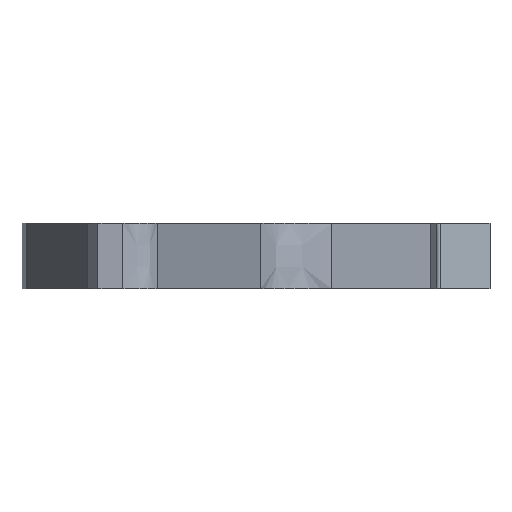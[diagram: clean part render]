
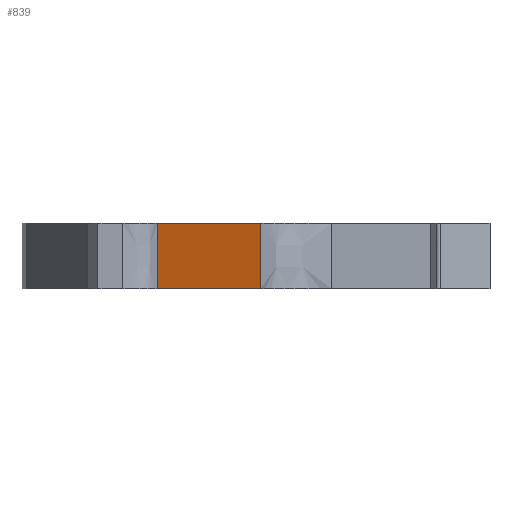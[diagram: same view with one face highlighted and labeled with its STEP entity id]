
A CAD part, left-side view. The second image highlights one B-rep face of the part: STEP entity #839.
In plain terms, the highlighted free-form (B-spline) face has degree [1, 1] with [2, 2] control points.
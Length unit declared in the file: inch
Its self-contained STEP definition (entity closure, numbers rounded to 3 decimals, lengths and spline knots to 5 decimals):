
#81=DIRECTION('',(0.936,-0.353,0.));
#82=VECTOR('',#81,0.53448);
#83=CARTESIAN_POINT('',(-0.51255,-0.10887,0.));
#84=LINE('',#83,#82);
#134=DIRECTION('',(0.,0.,1.));
#135=VECTOR('',#134,0.1185);
#136=CARTESIAN_POINT('',(-0.0124,-0.29732,0.));
#137=LINE('',#136,#135);
#152=DIRECTION('',(0.,0.,-1.));
#153=VECTOR('',#152,0.1185);
#154=CARTESIAN_POINT('',(-0.51255,-0.10887,0.1185));
#155=LINE('',#154,#153);
#399=DIRECTION('',(0.936,-0.353,0.));
#400=VECTOR('',#399,0.53448);
#401=CARTESIAN_POINT('',(-0.51255,-0.10887,0.1185));
#402=LINE('',#401,#400);
#557=CARTESIAN_POINT('',(-0.51255,-0.10887,0.1185));
#558=VERTEX_POINT('',#557);
#559=CARTESIAN_POINT('',(-0.51255,-0.10887,0.));
#560=VERTEX_POINT('',#559);
#565=CARTESIAN_POINT('',(-0.0124,-0.29732,0.));
#566=CARTESIAN_POINT('',(-0.0124,-0.29732,0.1185));
#567=VERTEX_POINT('',#565);
#568=VERTEX_POINT('',#566);
#826=CARTESIAN_POINT('',(-0.52255,-0.1051,-0.00237));
#827=CARTESIAN_POINT('',(-0.52255,-0.1051,0.12087));
#828=CARTESIAN_POINT('',(-0.00239,-0.30109,-0.00237));
#829=CARTESIAN_POINT('',(-0.00239,-0.30109,0.12087));
#830=B_SPLINE_SURFACE_WITH_KNOTS('',1,1,((#826,#827),(#828,#829)),.UNSPECIFIED.,
.F.,.F.,.F.,(2,2),(2,2),(0.03574,0.5916),(-0.00237,
0.12087),.UNSPECIFIED.);
#831=ORIENTED_EDGE('',*,*,#819,.F.);
#832=ORIENTED_EDGE('',*,*,#728,.F.);
#834=ORIENTED_EDGE('',*,*,#833,.F.);
#836=ORIENTED_EDGE('',*,*,#835,.T.);
#837=EDGE_LOOP('',(#831,#832,#834,#836));
#838=FACE_OUTER_BOUND('',#837,.F.);
#839=ADVANCED_FACE('',(#838),#830,.T.);
#728=EDGE_CURVE('',#560,#567,#84,.T.);
#819=EDGE_CURVE('',#567,#568,#137,.T.);
#833=EDGE_CURVE('',#558,#560,#155,.T.);
#835=EDGE_CURVE('',#558,#568,#402,.T.);
